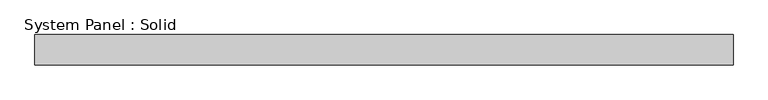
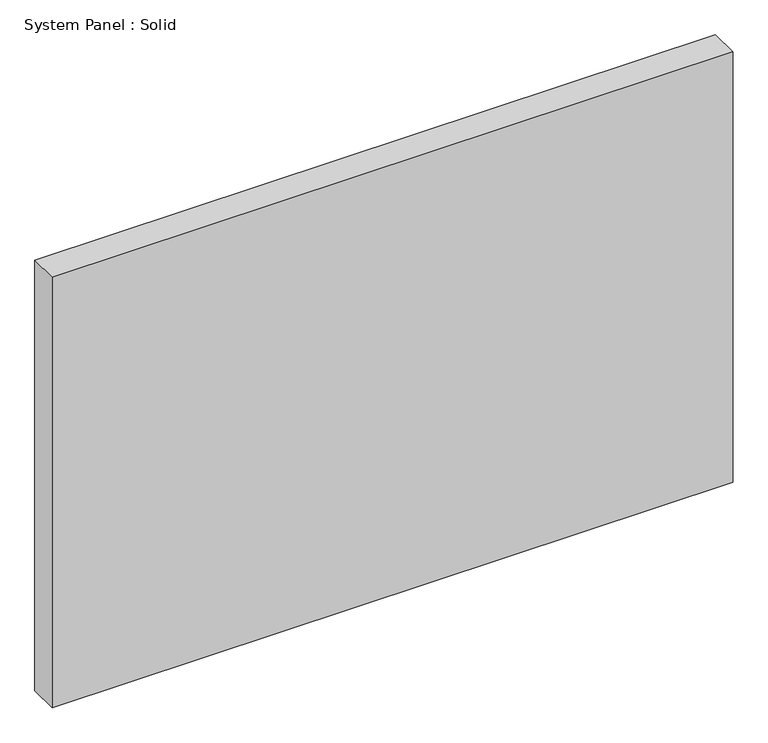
"""IFC4 building model written with IfcOpenShell, lengths in millimetres: plate geometry, System Panel : Solid."""

from ifc_helpers import new_model, si_unit, origin, origin_with_axes, place, context, project, spatial, polyline, outline, extrude, source, transform, mapped, element, save


def system_panel_solid_f38910df(model_context):
    return source(origin(), model_context, "Body", "SweptSolid", [
        extrude(outline(polyline([(727.075, -19.05), (-727.075, -19.05), (-727.075, 44.45), (727.075, 44.45), (727.075, -19.05)])), origin_with_axes(), (0.0, 0.0, 1.0), 971.55),
    ])


if __name__ == "__main__":
    model = new_model("IFC4")
    model_context = context("Model", 3, world=origin())
    ifc_project = project(units=[si_unit("LENGTHUNIT", "METRE", prefix="MILLI")], contexts=[model_context])
    site = spatial("IfcSite", under=ifc_project)
    building = spatial("IfcBuilding", under=site)
    placement = place(None, origin())
    system_panel_solid_shape = system_panel_solid_f38910df(model_context)
    element("IfcPlate", 1, ObjectType="System Panel : Solid", at=placement, inside=building, context=model_context, shape_type="MappedRepresentation", body=[
        mapped(system_panel_solid_shape, transform((0.0, 0.0, 0.0), x_axis=(1.0, 0.0, 0.0), y_axis=(0.0, 1.0, 0.0), z_axis=(0.0, 0.0, 1.0))),
    ])
    save(model, "model.ifc")
